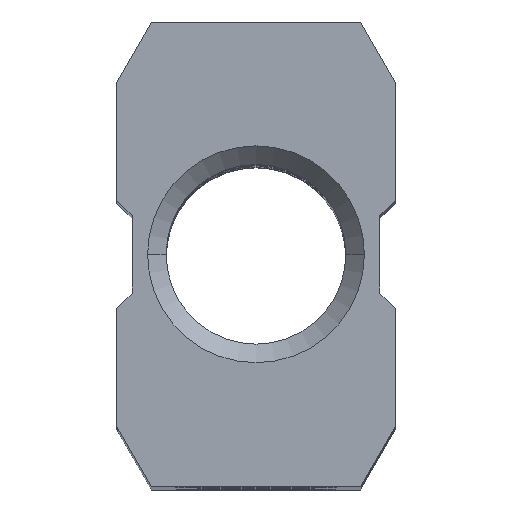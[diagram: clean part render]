
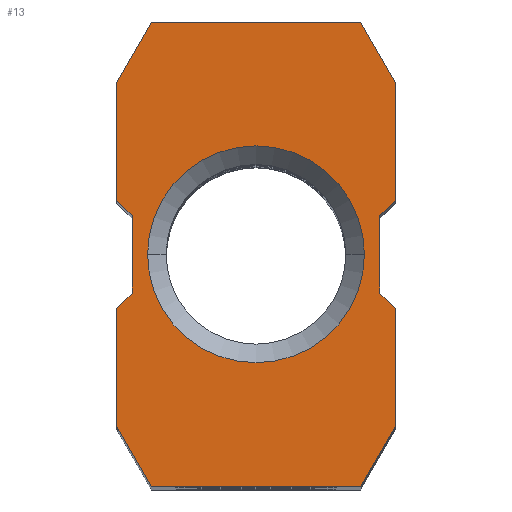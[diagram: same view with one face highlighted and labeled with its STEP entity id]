
A CAD part, top view. The second image highlights one B-rep face of the part: STEP entity #13.
In plain terms, the highlighted planar face has unit normal (0, 0, 1).
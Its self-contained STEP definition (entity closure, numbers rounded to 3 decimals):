
#4 = AXIS2_PLACEMENT_3D ( 'NONE', #2775, #1308, #3039 ) ;
#10 = ORIENTED_EDGE ( 'NONE', *, *, #2410, .T. ) ;
#13 = ADVANCED_FACE ( 'NONE', ( #599, #1271 ), #2315, .T. ) ;
#53 = LINE ( 'NONE', #2206, #1944 ) ;
#80 = CARTESIAN_POINT ( 'NONE',  ( -9., 18.5, 0. ) ) ;
#116 = VECTOR ( 'NONE', #775, 1000. ) ;
#138 = ORIENTED_EDGE ( 'NONE', *, *, #2504, .T. ) ;
#151 = EDGE_CURVE ( 'NONE', #2557, #2377, #1860, .T. ) ;
#162 = VERTEX_POINT ( 'NONE', #2822 ) ;
#192 = ORIENTED_EDGE ( 'NONE', *, *, #1921, .T. ) ;
#224 = ORIENTED_EDGE ( 'NONE', *, *, #2810, .T. ) ;
#263 = CARTESIAN_POINT ( 'NONE',  ( 6.75, 30., 0. ) ) ;
#273 = VERTEX_POINT ( 'NONE', #802 ) ;
#321 = LINE ( 'NONE', #263, #971 ) ;
#330 = ORIENTED_EDGE ( 'NONE', *, *, #472, .T. ) ;
#352 = VECTOR ( 'NONE', #1076, 1000. ) ;
#367 = CARTESIAN_POINT ( 'NONE',  ( 0., 15., 0. ) ) ;
#383 = EDGE_CURVE ( 'NONE', #162, #2841, #1736, .T. ) ;
#434 = CARTESIAN_POINT ( 'NONE',  ( -8., 17.5, 0. ) ) ;
#447 = ORIENTED_EDGE ( 'NONE', *, *, #2460, .T. ) ;
#449 = EDGE_CURVE ( 'NONE', #936, #2868, #1171, .T. ) ;
#467 = ORIENTED_EDGE ( 'NONE', *, *, #151, .T. ) ;
#472 = EDGE_CURVE ( 'NONE', #2841, #2494, #851, .T. ) ;
#530 = LINE ( 'NONE', #2561, #1851 ) ;
#534 = ORIENTED_EDGE ( 'NONE', *, *, #2500, .T. ) ;
#557 = CARTESIAN_POINT ( 'NONE',  ( 7., 15., 0. ) ) ;
#575 = CARTESIAN_POINT ( 'NONE',  ( 9., 3.897, 0. ) ) ;
#599 = FACE_BOUND ( 'NONE', #1238, .T. ) ;
#605 = EDGE_CURVE ( 'NONE', #2256, #1705, #1782, .T. ) ;
#613 = DIRECTION ( 'NONE',  ( 1., 0., 0. ) ) ;
#614 = CARTESIAN_POINT ( 'NONE',  ( -9., 11.5, 0. ) ) ;
#656 = ORIENTED_EDGE ( 'NONE', *, *, #2201, .T. ) ;
#660 = LINE ( 'NONE', #892, #1970 ) ;
#734 = DIRECTION ( 'NONE',  ( 0., 1., 0. ) ) ;
#749 = CARTESIAN_POINT ( 'NONE',  ( -6.75, 0., 0. ) ) ;
#760 = LINE ( 'NONE', #749, #116 ) ;
#775 = DIRECTION ( 'NONE',  ( 0.5, -0.866, 0. ) ) ;
#790 = DIRECTION ( 'NONE',  ( -0.5, 0.866, 0. ) ) ;
#802 = CARTESIAN_POINT ( 'NONE',  ( -7., 15., 0. ) ) ;
#819 = CARTESIAN_POINT ( 'NONE',  ( -6.75, 0., 0. ) ) ;
#833 = CARTESIAN_POINT ( 'NONE',  ( -6.75, 0., 0. ) ) ;
#848 = ORIENTED_EDGE ( 'NONE', *, *, #2397, .T. ) ;
#851 = LINE ( 'NONE', #80, #1507 ) ;
#852 = CARTESIAN_POINT ( 'NONE',  ( -8., 12.5, 0. ) ) ;
#853 = DIRECTION ( 'NONE',  ( 0., 0., 1. ) ) ;
#858 = DIRECTION ( 'NONE',  ( 0., -1., 0. ) ) ;
#892 = CARTESIAN_POINT ( 'NONE',  ( -8., 17.5, 0. ) ) ;
#904 = ORIENTED_EDGE ( 'NONE', *, *, #449, .T. ) ;
#930 = CARTESIAN_POINT ( 'NONE',  ( -9., 3.897, 0. ) ) ;
#936 = VERTEX_POINT ( 'NONE', #2381 ) ;
#971 = VECTOR ( 'NONE', #1732, 1000. ) ;
#974 = ORIENTED_EDGE ( 'NONE', *, *, #383, .T. ) ;
#975 = CARTESIAN_POINT ( 'NONE',  ( 9., 3.897, 0. ) ) ;
#1011 = DIRECTION ( 'NONE',  ( 0.707, 0.707, 0. ) ) ;
#1058 = VERTEX_POINT ( 'NONE', #1713 ) ;
#1076 = DIRECTION ( 'NONE',  ( 0., 1., 0. ) ) ;
#1102 = DIRECTION ( 'NONE',  ( 0.5, 0.866, 0. ) ) ;
#1111 = CARTESIAN_POINT ( 'NONE',  ( -7.757, 28.257, 0. ) ) ;
#1127 = EDGE_LOOP ( 'NONE', ( #974, #330, #848, #534, #1684, #1644, #224, #2226, #447, #656, #467, #192, #1932, #138, #904, #2718 ) ) ;
#1171 = LINE ( 'NONE', #2491, #2386 ) ;
#1238 = EDGE_LOOP ( 'NONE', ( #10, #2323 ) ) ;
#1271 = FACE_OUTER_BOUND ( 'NONE', #1127, .T. ) ;
#1294 = CARTESIAN_POINT ( 'NONE',  ( 9., 18.5, 0. ) ) ;
#1308 = DIRECTION ( 'NONE',  ( 0., 0., -1. ) ) ;
#1315 = AXIS2_PLACEMENT_3D ( 'NONE', #367, #2091, #613 ) ;
#1365 = CARTESIAN_POINT ( 'NONE',  ( 8., 12.5, 0. ) ) ;
#1429 = VERTEX_POINT ( 'NONE', #2930 ) ;
#1474 = LINE ( 'NONE', #2978, #2612 ) ;
#1502 = VERTEX_POINT ( 'NONE', #557 ) ;
#1507 = VECTOR ( 'NONE', #2048, 1000. ) ;
#1520 = CARTESIAN_POINT ( 'NONE',  ( -9., 26.103, 0. ) ) ;
#1527 = VERTEX_POINT ( 'NONE', #1294 ) ;
#1531 = VECTOR ( 'NONE', #1836, 1000. ) ;
#1644 = ORIENTED_EDGE ( 'NONE', *, *, #1714, .T. ) ;
#1661 = CIRCLE ( 'NONE', #4, 7. ) ;
#1671 = CARTESIAN_POINT ( 'NONE',  ( -9., 11.5, 0. ) ) ;
#1684 = ORIENTED_EDGE ( 'NONE', *, *, #605, .T. ) ;
#1705 = VERTEX_POINT ( 'NONE', #1671 ) ;
#1713 = CARTESIAN_POINT ( 'NONE',  ( 8., 17.5, 0. ) ) ;
#1714 = EDGE_CURVE ( 'NONE', #1705, #1429, #2614, .T. ) ;
#1732 = DIRECTION ( 'NONE',  ( -1., 0., 0. ) ) ;
#1736 = LINE ( 'NONE', #1829, #2966 ) ;
#1768 = VECTOR ( 'NONE', #858, 1000. ) ;
#1782 = LINE ( 'NONE', #614, #2938 ) ;
#1817 = LINE ( 'NONE', #575, #352 ) ;
#1823 = DIRECTION ( 'NONE',  ( 1., 0., 0. ) ) ;
#1829 = CARTESIAN_POINT ( 'NONE',  ( -9., 26.103, 0. ) ) ;
#1836 = DIRECTION ( 'NONE',  ( 1., 0., 0. ) ) ;
#1844 = CARTESIAN_POINT ( 'NONE',  ( -8., 12.5, 0. ) ) ;
#1851 = VECTOR ( 'NONE', #2819, 1000. ) ;
#1856 = VERTEX_POINT ( 'NONE', #434 ) ;
#1860 = LINE ( 'NONE', #2904, #2340 ) ;
#1902 = CARTESIAN_POINT ( 'NONE',  ( 6.75, 0., 0. ) ) ;
#1921 = EDGE_CURVE ( 'NONE', #2377, #1058, #53, .T. ) ;
#1932 = ORIENTED_EDGE ( 'NONE', *, *, #2031, .T. ) ;
#1944 = VECTOR ( 'NONE', #734, 1000. ) ;
#1961 = EDGE_CURVE ( 'NONE', #2868, #162, #321, .T. ) ;
#1970 = VECTOR ( 'NONE', #3099, 1000. ) ;
#2031 = EDGE_CURVE ( 'NONE', #1058, #1527, #1474, .T. ) ;
#2048 = DIRECTION ( 'NONE',  ( 0., -1., 0. ) ) ;
#2073 = DIRECTION ( 'NONE',  ( -0.5, -0.866, 0. ) ) ;
#2091 = DIRECTION ( 'NONE',  ( 0., 0., -1. ) ) ;
#2187 = LINE ( 'NONE', #833, #1531 ) ;
#2201 = EDGE_CURVE ( 'NONE', #2706, #2557, #1817, .T. ) ;
#2206 = CARTESIAN_POINT ( 'NONE',  ( 8., 12.5, 0. ) ) ;
#2226 = ORIENTED_EDGE ( 'NONE', *, *, #3076, .T. ) ;
#2256 = VERTEX_POINT ( 'NONE', #852 ) ;
#2285 = CARTESIAN_POINT ( 'NONE',  ( 6.75, 30., 0. ) ) ;
#2309 = DIRECTION ( 'NONE',  ( -0.707, -0.707, 0. ) ) ;
#2315 = PLANE ( 'NONE',  #3185 ) ;
#2319 = CARTESIAN_POINT ( 'NONE',  ( 9., 11.5, 0. ) ) ;
#2323 = ORIENTED_EDGE ( 'NONE', *, *, #2485, .T. ) ;
#2340 = VECTOR ( 'NONE', #2894, 1000. ) ;
#2377 = VERTEX_POINT ( 'NONE', #1365 ) ;
#2381 = CARTESIAN_POINT ( 'NONE',  ( 9., 26.103, 0. ) ) ;
#2386 = VECTOR ( 'NONE', #790, 1000. ) ;
#2395 = DIRECTION ( 'NONE',  ( 0., -1., 0. ) ) ;
#2397 = EDGE_CURVE ( 'NONE', #2494, #1856, #660, .T. ) ;
#2410 = EDGE_CURVE ( 'NONE', #1502, #273, #1661, .T. ) ;
#2411 = LINE ( 'NONE', #1844, #1768 ) ;
#2460 = EDGE_CURVE ( 'NONE', #2646, #2706, #2555, .T. ) ;
#2471 = VECTOR ( 'NONE', #1102, 1000. ) ;
#2485 = EDGE_CURVE ( 'NONE', #273, #1502, #3166, .T. ) ;
#2491 = CARTESIAN_POINT ( 'NONE',  ( 9., 26.103, 0. ) ) ;
#2494 = VERTEX_POINT ( 'NONE', #3075 ) ;
#2500 = EDGE_CURVE ( 'NONE', #1856, #2256, #2411, .T. ) ;
#2504 = EDGE_CURVE ( 'NONE', #1527, #936, #530, .T. ) ;
#2534 = VECTOR ( 'NONE', #2395, 1000. ) ;
#2548 = CARTESIAN_POINT ( 'NONE',  ( 6.75, 0., 0. ) ) ;
#2555 = LINE ( 'NONE', #2548, #2471 ) ;
#2557 = VERTEX_POINT ( 'NONE', #2319 ) ;
#2561 = CARTESIAN_POINT ( 'NONE',  ( 9., 18.5, 0. ) ) ;
#2612 = VECTOR ( 'NONE', #1011, 1000. ) ;
#2614 = LINE ( 'NONE', #930, #2534 ) ;
#2646 = VERTEX_POINT ( 'NONE', #1902 ) ;
#2706 = VERTEX_POINT ( 'NONE', #975 ) ;
#2718 = ORIENTED_EDGE ( 'NONE', *, *, #1961, .T. ) ;
#2775 = CARTESIAN_POINT ( 'NONE',  ( 0., 15., 0. ) ) ;
#2810 = EDGE_CURVE ( 'NONE', #1429, #2877, #760, .T. ) ;
#2819 = DIRECTION ( 'NONE',  ( 0., 1., 0. ) ) ;
#2822 = CARTESIAN_POINT ( 'NONE',  ( -6.75, 30., 0. ) ) ;
#2841 = VERTEX_POINT ( 'NONE', #1520 ) ;
#2868 = VERTEX_POINT ( 'NONE', #2285 ) ;
#2877 = VERTEX_POINT ( 'NONE', #819 ) ;
#2894 = DIRECTION ( 'NONE',  ( -0.707, 0.707, 0. ) ) ;
#2904 = CARTESIAN_POINT ( 'NONE',  ( 9., 11.5, 0. ) ) ;
#2930 = CARTESIAN_POINT ( 'NONE',  ( -9., 3.897, 0. ) ) ;
#2938 = VECTOR ( 'NONE', #2309, 1000. ) ;
#2966 = VECTOR ( 'NONE', #2073, 1000. ) ;
#2978 = CARTESIAN_POINT ( 'NONE',  ( 8., 17.5, 0. ) ) ;
#3039 = DIRECTION ( 'NONE',  ( 1., 0., 0. ) ) ;
#3075 = CARTESIAN_POINT ( 'NONE',  ( -9., 18.5, 0. ) ) ;
#3076 = EDGE_CURVE ( 'NONE', #2877, #2646, #2187, .T. ) ;
#3099 = DIRECTION ( 'NONE',  ( 0.707, -0.707, 0. ) ) ;
#3166 = CIRCLE ( 'NONE', #1315, 7. ) ;
#3185 = AXIS2_PLACEMENT_3D ( 'NONE', #1111, #853, #1823 ) ;
